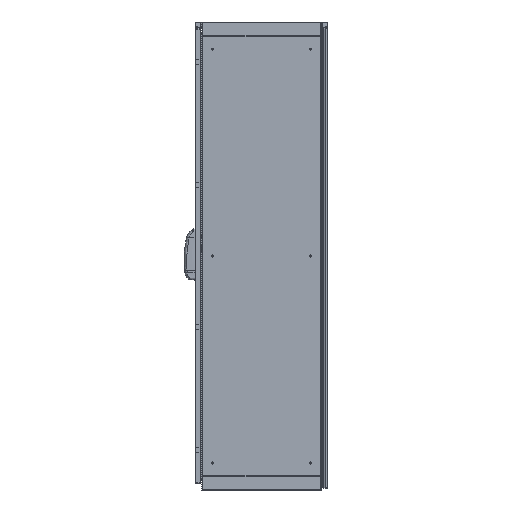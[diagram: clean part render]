
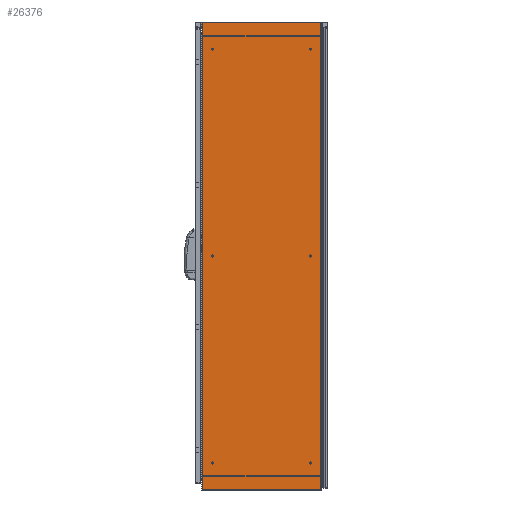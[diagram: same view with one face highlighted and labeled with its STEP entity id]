
A CAD part, left-side view. The second image highlights one B-rep face of the part: STEP entity #26376.
In plain terms, the highlighted planar face has unit normal (-1, 0, 0).
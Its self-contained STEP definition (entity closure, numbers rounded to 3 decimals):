
#769 = LINE ( 'NONE', #52453, #56023 ) ;
#786 = EDGE_CURVE ( 'NONE', #60523, #35947, #67872, .T. ) ;
#6721 = DIRECTION ( 'NONE',  ( 0., -1., 0. ) ) ;
#9153 = VERTEX_POINT ( 'NONE', #67490 ) ;
#13764 = CARTESIAN_POINT ( 'NONE',  ( -500., -229.43, 0. ) ) ;
#15919 = FACE_OUTER_BOUND ( 'NONE', #63466, .T. ) ;
#17820 = CARTESIAN_POINT ( 'NONE',  ( -500., 229.43, 0. ) ) ;
#18312 = EDGE_CURVE ( 'NONE', #9153, #60523, #59057, .T. ) ;
#18979 = EDGE_CURVE ( 'NONE', #9153, #60360, #32997, .T. ) ;
#19411 = VECTOR ( 'NONE', #79041, 1000. ) ;
#23304 = DIRECTION ( 'NONE',  ( 1., 0., 0. ) ) ;
#25066 = VECTOR ( 'NONE', #65138, 1000. ) ;
#26376 = ADVANCED_FACE ( 'NONE', ( #15919 ), #56726, .F. ) ;
#26499 = CARTESIAN_POINT ( 'NONE',  ( -500., 229.43, 1809. ) ) ;
#30646 = DIRECTION ( 'NONE',  ( 0., 0., -1. ) ) ;
#32997 = LINE ( 'NONE', #64705, #25066 ) ;
#35767 = VECTOR ( 'NONE', #6721, 1000. ) ;
#35947 = VERTEX_POINT ( 'NONE', #13764 ) ;
#36054 = ORIENTED_EDGE ( 'NONE', *, *, #66783, .T. ) ;
#36983 = ORIENTED_EDGE ( 'NONE', *, *, #18312, .T. ) ;
#46355 = DIRECTION ( 'NONE',  ( 0., 0., 1. ) ) ;
#47776 = ORIENTED_EDGE ( 'NONE', *, *, #18979, .F. ) ;
#49364 = CARTESIAN_POINT ( 'NONE',  ( -500., 233.5, 1809. ) ) ;
#52453 = CARTESIAN_POINT ( 'NONE',  ( -500., -229.43, 1809. ) ) ;
#56023 = VECTOR ( 'NONE', #46355, 1000. ) ;
#56726 = PLANE ( 'NONE',  #85626 ) ;
#58883 = ORIENTED_EDGE ( 'NONE', *, *, #786, .T. ) ;
#59057 = LINE ( 'NONE', #26499, #19411 ) ;
#60360 = VERTEX_POINT ( 'NONE', #73872 ) ;
#60523 = VERTEX_POINT ( 'NONE', #17820 ) ;
#63466 = EDGE_LOOP ( 'NONE', ( #58883, #36054, #47776, #36983 ) ) ;
#64705 = CARTESIAN_POINT ( 'NONE',  ( -500., 233.5, 1809. ) ) ;
#65138 = DIRECTION ( 'NONE',  ( 0., -1., 0. ) ) ;
#66783 = EDGE_CURVE ( 'NONE', #35947, #60360, #769, .T. ) ;
#67490 = CARTESIAN_POINT ( 'NONE',  ( -500., 229.43, 1809. ) ) ;
#67872 = LINE ( 'NONE', #73531, #35767 ) ;
#73531 = CARTESIAN_POINT ( 'NONE',  ( -500., 233.5, 0. ) ) ;
#73872 = CARTESIAN_POINT ( 'NONE',  ( -500., -229.43, 1809. ) ) ;
#79041 = DIRECTION ( 'NONE',  ( 0., 0., -1. ) ) ;
#85626 = AXIS2_PLACEMENT_3D ( 'NONE', #49364, #23304, #30646 ) ;
